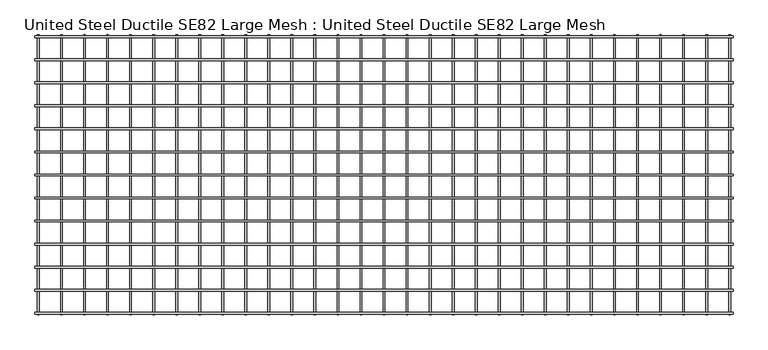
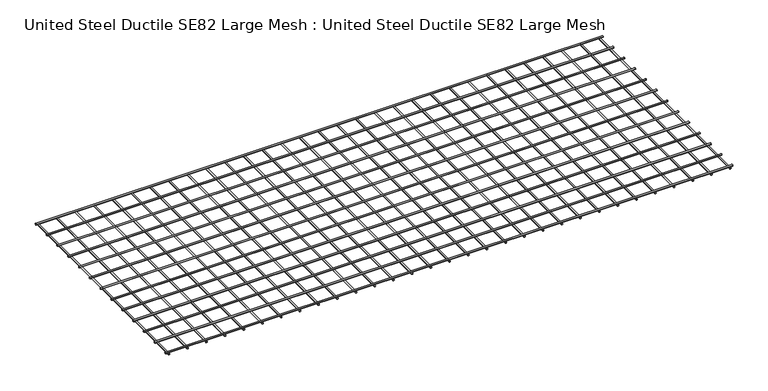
"""IFC4 building model written with IfcOpenShell, lengths in millimetres: proxy geometry, United Steel Ductile SE82 Large Mesh : United Steel Ductile SE82 Large Mesh."""

from ifc_helpers import new_model, si_unit, point, frame, frame_2d, origin, place, context, project, spatial, circle_curve, trimmed, segment, composite_curve, outline, extrude, source, transform, mapped, element, save


def united_steel_ductile_se82_large_mesh_united_steel_ductile_e41e5695(model_context):
    return source(origin(), model_context, "Body", "SweptSolid", [
        extrude(outline(composite_curve([segment(trimmed(circle_curve(frame_2d((-215.851314, 23.9363355)), 8.0), [point((-223.851314, 23.9363355))], [point((-207.851314, 23.9363355))], False, "CARTESIAN"), True, "CONTINUOUS"), segment(trimmed(circle_curve(frame_2d((-215.851314, 23.9363355)), 8.0), [point((-207.851314, 23.9363355))], [point((-223.851314, 23.9363355))], False, "CARTESIAN"), True, "CONTINUOUS")], self_intersect=False)), frame((-6060.0, 0.0, 0.0), z_axis=(1.0, 0.0, 0.0), x_axis=(0.0, 1.0, 0.0)), (0.0, 0.0, 1.0), 6060.0),
        extrude(outline(composite_curve([segment(trimmed(circle_curve(frame_2d((-415.8334994, 23.9363355)), 8.0), [point((-423.8334994, 23.9363355))], [point((-407.8334994, 23.9363355))], False, "CARTESIAN"), True, "CONTINUOUS"), segment(trimmed(circle_curve(frame_2d((-415.8334994, 23.9363355)), 8.0), [point((-407.8334994, 23.9363355))], [point((-423.8334994, 23.9363355))], False, "CARTESIAN"), True, "CONTINUOUS")], self_intersect=False)), frame((-6060.0, 0.0, 0.0), z_axis=(1.0, 0.0, 0.0), x_axis=(0.0, 1.0, 0.0)), (0.0, 0.0, 1.0), 6060.0),
        extrude(outline(composite_curve([segment(trimmed(circle_curve(frame_2d((7.9208072, -5829.877103)), 8.0), [point((7.9208072, -5837.877103))], [point((7.9208072, -5821.877103))], False, "CARTESIAN"), True, "CONTINUOUS"), segment(trimmed(circle_curve(frame_2d((7.9208072, -5829.877103)), 8.0), [point((7.9208072, -5821.877103))], [point((7.9208072, -5837.877103))], False, "CARTESIAN"), True, "CONTINUOUS")], self_intersect=False)), frame((0.0, -2430.0, 0.0), z_axis=(0.0, 1.0, 0.0), x_axis=(0.0, 0.0, 1.0)), (0.0, 0.0, 1.0), 2430.0),
        extrude(outline(composite_curve([segment(trimmed(circle_curve(frame_2d((7.9208072, -5629.8804145)), 8.0), [point((7.9208072, -5637.8804145))], [point((7.9208072, -5621.8804145))], False, "CARTESIAN"), True, "CONTINUOUS"), segment(trimmed(circle_curve(frame_2d((7.9208072, -5629.8804145)), 8.0), [point((7.9208072, -5621.8804145))], [point((7.9208072, -5637.8804145))], False, "CARTESIAN"), True, "CONTINUOUS")], self_intersect=False)), frame((0.0, -2430.0, 0.0), z_axis=(0.0, 1.0, 0.0), x_axis=(0.0, 0.0, 1.0)), (0.0, 0.0, 1.0), 2430.0),
        extrude(outline(composite_curve([segment(trimmed(circle_curve(frame_2d((7.9208072, -5429.883726)), 8.0), [point((7.9208072, -5437.883726))], [point((7.9208072, -5421.883726))], False, "CARTESIAN"), True, "CONTINUOUS"), segment(trimmed(circle_curve(frame_2d((7.9208072, -5429.883726)), 8.0), [point((7.9208072, -5421.883726))], [point((7.9208072, -5437.883726))], False, "CARTESIAN"), True, "CONTINUOUS")], self_intersect=False)), frame((0.0, -2430.0, 0.0), z_axis=(0.0, 1.0, 0.0), x_axis=(0.0, 0.0, 1.0)), (0.0, 0.0, 1.0), 2430.0),
        extrude(outline(composite_curve([segment(trimmed(circle_curve(frame_2d((7.9208072, -5229.8870376)), 8.0), [point((7.9208072, -5237.8870376))], [point((7.9208072, -5221.8870376))], False, "CARTESIAN"), True, "CONTINUOUS"), segment(trimmed(circle_curve(frame_2d((7.9208072, -5229.8870376)), 8.0), [point((7.9208072, -5221.8870376))], [point((7.9208072, -5237.8870376))], False, "CARTESIAN"), True, "CONTINUOUS")], self_intersect=False)), frame((0.0, -2430.0, 0.0), z_axis=(0.0, 1.0, 0.0), x_axis=(0.0, 0.0, 1.0)), (0.0, 0.0, 1.0), 2430.0),
        extrude(outline(composite_curve([segment(trimmed(circle_curve(frame_2d((7.9208072, -5029.8903491)), 8.0), [point((7.9208072, -5037.8903491))], [point((7.9208072, -5021.8903491))], False, "CARTESIAN"), True, "CONTINUOUS"), segment(trimmed(circle_curve(frame_2d((7.9208072, -5029.8903491)), 8.0), [point((7.9208072, -5021.8903491))], [point((7.9208072, -5037.8903491))], False, "CARTESIAN"), True, "CONTINUOUS")], self_intersect=False)), frame((0.0, -2430.0, 0.0), z_axis=(0.0, 1.0, 0.0), x_axis=(0.0, 0.0, 1.0)), (0.0, 0.0, 1.0), 2430.0),
        extrude(outline(composite_curve([segment(trimmed(circle_curve(frame_2d((-615.8156849, 23.9363355)), 8.0), [point((-623.8156849, 23.9363355))], [point((-607.8156849, 23.9363355))], False, "CARTESIAN"), True, "CONTINUOUS"), segment(trimmed(circle_curve(frame_2d((-615.8156849, 23.9363355)), 8.0), [point((-607.8156849, 23.9363355))], [point((-623.8156849, 23.9363355))], False, "CARTESIAN"), True, "CONTINUOUS")], self_intersect=False)), frame((-6060.0, 0.0, 0.0), z_axis=(1.0, 0.0, 0.0), x_axis=(0.0, 1.0, 0.0)), (0.0, 0.0, 1.0), 6060.0),
        extrude(outline(composite_curve([segment(trimmed(circle_curve(frame_2d((-815.7978704, 23.9363355)), 8.0), [point((-823.7978704, 23.9363355))], [point((-807.7978704, 23.9363355))], False, "CARTESIAN"), True, "CONTINUOUS"), segment(trimmed(circle_curve(frame_2d((-815.7978704, 23.9363355)), 8.0), [point((-807.7978704, 23.9363355))], [point((-823.7978704, 23.9363355))], False, "CARTESIAN"), True, "CONTINUOUS")], self_intersect=False)), frame((-6060.0, 0.0, 0.0), z_axis=(1.0, 0.0, 0.0), x_axis=(0.0, 1.0, 0.0)), (0.0, 0.0, 1.0), 6060.0),
        extrude(outline(composite_curve([segment(trimmed(circle_curve(frame_2d((-1015.7800559, 23.9363355)), 8.0), [point((-1023.7800559, 23.9363355))], [point((-1007.7800559, 23.9363355))], False, "CARTESIAN"), True, "CONTINUOUS"), segment(trimmed(circle_curve(frame_2d((-1015.7800559, 23.9363355)), 8.0), [point((-1007.7800559, 23.9363355))], [point((-1023.7800559, 23.9363355))], False, "CARTESIAN"), True, "CONTINUOUS")], self_intersect=False)), frame((-6060.0, 0.0, 0.0), z_axis=(1.0, 0.0, 0.0), x_axis=(0.0, 1.0, 0.0)), (0.0, 0.0, 1.0), 6060.0),
        extrude(outline(composite_curve([segment(trimmed(circle_curve(frame_2d((-1215.7622413, 23.9363355)), 8.0), [point((-1223.7622413, 23.9363355))], [point((-1207.7622413, 23.9363355))], False, "CARTESIAN"), True, "CONTINUOUS"), segment(trimmed(circle_curve(frame_2d((-1215.7622413, 23.9363355)), 8.0), [point((-1207.7622413, 23.9363355))], [point((-1223.7622413, 23.9363355))], False, "CARTESIAN"), True, "CONTINUOUS")], self_intersect=False)), frame((-6060.0, 0.0, 0.0), z_axis=(1.0, 0.0, 0.0), x_axis=(0.0, 1.0, 0.0)), (0.0, 0.0, 1.0), 6060.0),
        extrude(outline(composite_curve([segment(trimmed(circle_curve(frame_2d((-1415.7444268, 23.9363355)), 8.0), [point((-1423.7444268, 23.9363355))], [point((-1407.7444268, 23.9363355))], False, "CARTESIAN"), True, "CONTINUOUS"), segment(trimmed(circle_curve(frame_2d((-1415.7444268, 23.9363355)), 8.0), [point((-1407.7444268, 23.9363355))], [point((-1423.7444268, 23.9363355))], False, "CARTESIAN"), True, "CONTINUOUS")], self_intersect=False)), frame((-6060.0, 0.0, 0.0), z_axis=(1.0, 0.0, 0.0), x_axis=(0.0, 1.0, 0.0)), (0.0, 0.0, 1.0), 6060.0),
        extrude(outline(composite_curve([segment(trimmed(circle_curve(frame_2d((-1615.7266123, 23.9363355)), 8.0), [point((-1623.7266123, 23.9363355))], [point((-1607.7266123, 23.9363355))], False, "CARTESIAN"), True, "CONTINUOUS"), segment(trimmed(circle_curve(frame_2d((-1615.7266123, 23.9363355)), 8.0), [point((-1607.7266123, 23.9363355))], [point((-1623.7266123, 23.9363355))], False, "CARTESIAN"), True, "CONTINUOUS")], self_intersect=False)), frame((-6060.0, 0.0, 0.0), z_axis=(1.0, 0.0, 0.0), x_axis=(0.0, 1.0, 0.0)), (0.0, 0.0, 1.0), 6060.0),
        extrude(outline(composite_curve([segment(trimmed(circle_curve(frame_2d((-1815.7087978, 23.9363355)), 8.0), [point((-1823.7087978, 23.9363355))], [point((-1807.7087978, 23.9363355))], False, "CARTESIAN"), True, "CONTINUOUS"), segment(trimmed(circle_curve(frame_2d((-1815.7087978, 23.9363355)), 8.0), [point((-1807.7087978, 23.9363355))], [point((-1823.7087978, 23.9363355))], False, "CARTESIAN"), True, "CONTINUOUS")], self_intersect=False)), frame((-6060.0, 0.0, 0.0), z_axis=(1.0, 0.0, 0.0), x_axis=(0.0, 1.0, 0.0)), (0.0, 0.0, 1.0), 6060.0),
        extrude(outline(composite_curve([segment(trimmed(circle_curve(frame_2d((-2015.6909832, 23.9363355)), 8.0), [point((-2023.6909832, 23.9363355))], [point((-2007.6909832, 23.9363355))], False, "CARTESIAN"), True, "CONTINUOUS"), segment(trimmed(circle_curve(frame_2d((-2015.6909832, 23.9363355)), 8.0), [point((-2007.6909832, 23.9363355))], [point((-2023.6909832, 23.9363355))], False, "CARTESIAN"), True, "CONTINUOUS")], self_intersect=False)), frame((-6060.0, 0.0, 0.0), z_axis=(1.0, 0.0, 0.0), x_axis=(0.0, 1.0, 0.0)), (0.0, 0.0, 1.0), 6060.0),
        extrude(outline(composite_curve([segment(trimmed(circle_curve(frame_2d((-2215.6731687, 23.9363355)), 8.0), [point((-2223.6731687, 23.9363355))], [point((-2207.6731687, 23.9363355))], False, "CARTESIAN"), True, "CONTINUOUS"), segment(trimmed(circle_curve(frame_2d((-2215.6731687, 23.9363355)), 8.0), [point((-2207.6731687, 23.9363355))], [point((-2223.6731687, 23.9363355))], False, "CARTESIAN"), True, "CONTINUOUS")], self_intersect=False)), frame((-6060.0, 0.0, 0.0), z_axis=(1.0, 0.0, 0.0), x_axis=(0.0, 1.0, 0.0)), (0.0, 0.0, 1.0), 6060.0),
        extrude(outline(composite_curve([segment(trimmed(circle_curve(frame_2d((-15.8691285, 23.9363355)), 8.0), [point((-23.8691285, 23.9363355))], [point((-7.8691285, 23.9363355))], False, "CARTESIAN"), True, "CONTINUOUS"), segment(trimmed(circle_curve(frame_2d((-15.8691285, 23.9363355)), 8.0), [point((-7.8691285, 23.9363355))], [point((-23.8691285, 23.9363355))], False, "CARTESIAN"), True, "CONTINUOUS")], self_intersect=False)), frame((-6060.0, 0.0, 0.0), z_axis=(1.0, 0.0, 0.0), x_axis=(0.0, 1.0, 0.0)), (0.0, 0.0, 1.0), 6060.0),
        extrude(outline(composite_curve([segment(trimmed(circle_curve(frame_2d((-2415.6553542, 23.9363355)), 8.0), [point((-2423.6553542, 23.9363355))], [point((-2407.6553542, 23.9363355))], False, "CARTESIAN"), True, "CONTINUOUS"), segment(trimmed(circle_curve(frame_2d((-2415.6553542, 23.9363355)), 8.0), [point((-2407.6553542, 23.9363355))], [point((-2423.6553542, 23.9363355))], False, "CARTESIAN"), True, "CONTINUOUS")], self_intersect=False)), frame((-6060.0, 0.0, 0.0), z_axis=(1.0, 0.0, 0.0), x_axis=(0.0, 1.0, 0.0)), (0.0, 0.0, 1.0), 6060.0),
        extrude(outline(composite_curve([segment(trimmed(circle_curve(frame_2d((7.9208072, -4829.8936606)), 8.0), [point((7.9208072, -4837.8936606))], [point((7.9208072, -4821.8936606))], False, "CARTESIAN"), True, "CONTINUOUS"), segment(trimmed(circle_curve(frame_2d((7.9208072, -4829.8936606)), 8.0), [point((7.9208072, -4821.8936606))], [point((7.9208072, -4837.8936606))], False, "CARTESIAN"), True, "CONTINUOUS")], self_intersect=False)), frame((0.0, -2430.0, 0.0), z_axis=(0.0, 1.0, 0.0), x_axis=(0.0, 0.0, 1.0)), (0.0, 0.0, 1.0), 2430.0),
        extrude(outline(composite_curve([segment(trimmed(circle_curve(frame_2d((7.9208072, -4629.8969721)), 8.0), [point((7.9208072, -4637.8969721))], [point((7.9208072, -4621.8969721))], False, "CARTESIAN"), True, "CONTINUOUS"), segment(trimmed(circle_curve(frame_2d((7.9208072, -4629.8969721)), 8.0), [point((7.9208072, -4621.8969721))], [point((7.9208072, -4637.8969721))], False, "CARTESIAN"), True, "CONTINUOUS")], self_intersect=False)), frame((0.0, -2430.0, 0.0), z_axis=(0.0, 1.0, 0.0), x_axis=(0.0, 0.0, 1.0)), (0.0, 0.0, 1.0), 2430.0),
        extrude(outline(composite_curve([segment(trimmed(circle_curve(frame_2d((7.9208072, -4429.9002836)), 8.0), [point((7.9208072, -4437.9002836))], [point((7.9208072, -4421.9002836))], False, "CARTESIAN"), True, "CONTINUOUS"), segment(trimmed(circle_curve(frame_2d((7.9208072, -4429.9002836)), 8.0), [point((7.9208072, -4421.9002836))], [point((7.9208072, -4437.9002836))], False, "CARTESIAN"), True, "CONTINUOUS")], self_intersect=False)), frame((0.0, -2430.0, 0.0), z_axis=(0.0, 1.0, 0.0), x_axis=(0.0, 0.0, 1.0)), (0.0, 0.0, 1.0), 2430.0),
        extrude(outline(composite_curve([segment(trimmed(circle_curve(frame_2d((7.9208072, -4229.9035951)), 8.0), [point((7.9208072, -4237.9035951))], [point((7.9208072, -4221.9035951))], False, "CARTESIAN"), True, "CONTINUOUS"), segment(trimmed(circle_curve(frame_2d((7.9208072, -4229.9035951)), 8.0), [point((7.9208072, -4221.9035951))], [point((7.9208072, -4237.9035951))], False, "CARTESIAN"), True, "CONTINUOUS")], self_intersect=False)), frame((0.0, -2430.0, 0.0), z_axis=(0.0, 1.0, 0.0), x_axis=(0.0, 0.0, 1.0)), (0.0, 0.0, 1.0), 2430.0),
        extrude(outline(composite_curve([segment(trimmed(circle_curve(frame_2d((7.9208072, -4029.9069067)), 8.0), [point((7.9208072, -4037.9069067))], [point((7.9208072, -4021.9069067))], False, "CARTESIAN"), True, "CONTINUOUS"), segment(trimmed(circle_curve(frame_2d((7.9208072, -4029.9069067)), 8.0), [point((7.9208072, -4021.9069067))], [point((7.9208072, -4037.9069067))], False, "CARTESIAN"), True, "CONTINUOUS")], self_intersect=False)), frame((0.0, -2430.0, 0.0), z_axis=(0.0, 1.0, 0.0), x_axis=(0.0, 0.0, 1.0)), (0.0, 0.0, 1.0), 2430.0),
        extrude(outline(composite_curve([segment(trimmed(circle_curve(frame_2d((7.9208072, -3829.9102182)), 8.0), [point((7.9208072, -3837.9102182))], [point((7.9208072, -3821.9102182))], False, "CARTESIAN"), True, "CONTINUOUS"), segment(trimmed(circle_curve(frame_2d((7.9208072, -3829.9102182)), 8.0), [point((7.9208072, -3821.9102182))], [point((7.9208072, -3837.9102182))], False, "CARTESIAN"), True, "CONTINUOUS")], self_intersect=False)), frame((0.0, -2430.0, 0.0), z_axis=(0.0, 1.0, 0.0), x_axis=(0.0, 0.0, 1.0)), (0.0, 0.0, 1.0), 2430.0),
        extrude(outline(composite_curve([segment(trimmed(circle_curve(frame_2d((7.9208072, -3629.9135297)), 8.0), [point((7.9208072, -3637.9135297))], [point((7.9208072, -3621.9135297))], False, "CARTESIAN"), True, "CONTINUOUS"), segment(trimmed(circle_curve(frame_2d((7.9208072, -3629.9135297)), 8.0), [point((7.9208072, -3621.9135297))], [point((7.9208072, -3637.9135297))], False, "CARTESIAN"), True, "CONTINUOUS")], self_intersect=False)), frame((0.0, -2430.0, 0.0), z_axis=(0.0, 1.0, 0.0), x_axis=(0.0, 0.0, 1.0)), (0.0, 0.0, 1.0), 2430.0),
        extrude(outline(composite_curve([segment(trimmed(circle_curve(frame_2d((7.9208072, -3429.9168412)), 8.0), [point((7.9208072, -3437.9168412))], [point((7.9208072, -3421.9168412))], False, "CARTESIAN"), True, "CONTINUOUS"), segment(trimmed(circle_curve(frame_2d((7.9208072, -3429.9168412)), 8.0), [point((7.9208072, -3421.9168412))], [point((7.9208072, -3437.9168412))], False, "CARTESIAN"), True, "CONTINUOUS")], self_intersect=False)), frame((0.0, -2430.0, 0.0), z_axis=(0.0, 1.0, 0.0), x_axis=(0.0, 0.0, 1.0)), (0.0, 0.0, 1.0), 2430.0),
        extrude(outline(composite_curve([segment(trimmed(circle_curve(frame_2d((7.9208072, -3229.9201527)), 8.0), [point((7.9208072, -3237.9201527))], [point((7.9208072, -3221.9201527))], False, "CARTESIAN"), True, "CONTINUOUS"), segment(trimmed(circle_curve(frame_2d((7.9208072, -3229.9201527)), 8.0), [point((7.9208072, -3221.9201527))], [point((7.9208072, -3237.9201527))], False, "CARTESIAN"), True, "CONTINUOUS")], self_intersect=False)), frame((0.0, -2430.0, 0.0), z_axis=(0.0, 1.0, 0.0), x_axis=(0.0, 0.0, 1.0)), (0.0, 0.0, 1.0), 2430.0),
        extrude(outline(composite_curve([segment(trimmed(circle_curve(frame_2d((7.9208072, -3029.9234643)), 8.0), [point((7.9208072, -3037.9234643))], [point((7.9208072, -3021.9234643))], False, "CARTESIAN"), True, "CONTINUOUS"), segment(trimmed(circle_curve(frame_2d((7.9208072, -3029.9234643)), 8.0), [point((7.9208072, -3021.9234643))], [point((7.9208072, -3037.9234643))], False, "CARTESIAN"), True, "CONTINUOUS")], self_intersect=False)), frame((0.0, -2430.0, 0.0), z_axis=(0.0, 1.0, 0.0), x_axis=(0.0, 0.0, 1.0)), (0.0, 0.0, 1.0), 2430.0),
        extrude(outline(composite_curve([segment(trimmed(circle_curve(frame_2d((7.9208072, -2829.9267758)), 8.0), [point((7.9208072, -2837.9267758))], [point((7.9208072, -2821.9267758))], False, "CARTESIAN"), True, "CONTINUOUS"), segment(trimmed(circle_curve(frame_2d((7.9208072, -2829.9267758)), 8.0), [point((7.9208072, -2821.9267758))], [point((7.9208072, -2837.9267758))], False, "CARTESIAN"), True, "CONTINUOUS")], self_intersect=False)), frame((0.0, -2430.0, 0.0), z_axis=(0.0, 1.0, 0.0), x_axis=(0.0, 0.0, 1.0)), (0.0, 0.0, 1.0), 2430.0),
        extrude(outline(composite_curve([segment(trimmed(circle_curve(frame_2d((7.9208072, -2629.9300873)), 8.0), [point((7.9208072, -2637.9300873))], [point((7.9208072, -2621.9300873))], False, "CARTESIAN"), True, "CONTINUOUS"), segment(trimmed(circle_curve(frame_2d((7.9208072, -2629.9300873)), 8.0), [point((7.9208072, -2621.9300873))], [point((7.9208072, -2637.9300873))], False, "CARTESIAN"), True, "CONTINUOUS")], self_intersect=False)), frame((0.0, -2430.0, 0.0), z_axis=(0.0, 1.0, 0.0), x_axis=(0.0, 0.0, 1.0)), (0.0, 0.0, 1.0), 2430.0),
        extrude(outline(composite_curve([segment(trimmed(circle_curve(frame_2d((7.9208072, -2429.9333988)), 8.0), [point((7.9208072, -2437.9333988))], [point((7.9208072, -2421.9333988))], False, "CARTESIAN"), True, "CONTINUOUS"), segment(trimmed(circle_curve(frame_2d((7.9208072, -2429.9333988)), 8.0), [point((7.9208072, -2421.9333988))], [point((7.9208072, -2437.9333988))], False, "CARTESIAN"), True, "CONTINUOUS")], self_intersect=False)), frame((0.0, -2430.0, 0.0), z_axis=(0.0, 1.0, 0.0), x_axis=(0.0, 0.0, 1.0)), (0.0, 0.0, 1.0), 2430.0),
        extrude(outline(composite_curve([segment(trimmed(circle_curve(frame_2d((7.9208072, -2229.9367103)), 8.0), [point((7.9208072, -2237.9367103))], [point((7.9208072, -2221.9367103))], False, "CARTESIAN"), True, "CONTINUOUS"), segment(trimmed(circle_curve(frame_2d((7.9208072, -2229.9367103)), 8.0), [point((7.9208072, -2221.9367103))], [point((7.9208072, -2237.9367103))], False, "CARTESIAN"), True, "CONTINUOUS")], self_intersect=False)), frame((0.0, -2430.0, 0.0), z_axis=(0.0, 1.0, 0.0), x_axis=(0.0, 0.0, 1.0)), (0.0, 0.0, 1.0), 2430.0),
        extrude(outline(composite_curve([segment(trimmed(circle_curve(frame_2d((7.9208072, -2029.9400218)), 8.0), [point((7.9208072, -2037.9400218))], [point((7.9208072, -2021.9400218))], False, "CARTESIAN"), True, "CONTINUOUS"), segment(trimmed(circle_curve(frame_2d((7.9208072, -2029.9400218)), 8.0), [point((7.9208072, -2021.9400218))], [point((7.9208072, -2037.9400218))], False, "CARTESIAN"), True, "CONTINUOUS")], self_intersect=False)), frame((0.0, -2430.0, 0.0), z_axis=(0.0, 1.0, 0.0), x_axis=(0.0, 0.0, 1.0)), (0.0, 0.0, 1.0), 2430.0),
        extrude(outline(composite_curve([segment(trimmed(circle_curve(frame_2d((7.9208072, -1829.9433334)), 8.0), [point((7.9208072, -1837.9433334))], [point((7.9208072, -1821.9433334))], False, "CARTESIAN"), True, "CONTINUOUS"), segment(trimmed(circle_curve(frame_2d((7.9208072, -1829.9433334)), 8.0), [point((7.9208072, -1821.9433334))], [point((7.9208072, -1837.9433334))], False, "CARTESIAN"), True, "CONTINUOUS")], self_intersect=False)), frame((0.0, -2430.0, 0.0), z_axis=(0.0, 1.0, 0.0), x_axis=(0.0, 0.0, 1.0)), (0.0, 0.0, 1.0), 2430.0),
        extrude(outline(composite_curve([segment(trimmed(circle_curve(frame_2d((7.9208072, -1629.9466449)), 8.0), [point((7.9208072, -1637.9466449))], [point((7.9208072, -1621.9466449))], False, "CARTESIAN"), True, "CONTINUOUS"), segment(trimmed(circle_curve(frame_2d((7.9208072, -1629.9466449)), 8.0), [point((7.9208072, -1621.9466449))], [point((7.9208072, -1637.9466449))], False, "CARTESIAN"), True, "CONTINUOUS")], self_intersect=False)), frame((0.0, -2430.0, 0.0), z_axis=(0.0, 1.0, 0.0), x_axis=(0.0, 0.0, 1.0)), (0.0, 0.0, 1.0), 2430.0),
        extrude(outline(composite_curve([segment(trimmed(circle_curve(frame_2d((7.9208072, -1429.9499564)), 8.0), [point((7.9208072, -1437.9499564))], [point((7.9208072, -1421.9499564))], False, "CARTESIAN"), True, "CONTINUOUS"), segment(trimmed(circle_curve(frame_2d((7.9208072, -1429.9499564)), 8.0), [point((7.9208072, -1421.9499564))], [point((7.9208072, -1437.9499564))], False, "CARTESIAN"), True, "CONTINUOUS")], self_intersect=False)), frame((0.0, -2430.0, 0.0), z_axis=(0.0, 1.0, 0.0), x_axis=(0.0, 0.0, 1.0)), (0.0, 0.0, 1.0), 2430.0),
        extrude(outline(composite_curve([segment(trimmed(circle_curve(frame_2d((7.9208072, -1229.9532679)), 8.0), [point((7.9208072, -1237.9532679))], [point((7.9208072, -1221.9532679))], False, "CARTESIAN"), True, "CONTINUOUS"), segment(trimmed(circle_curve(frame_2d((7.9208072, -1229.9532679)), 8.0), [point((7.9208072, -1221.9532679))], [point((7.9208072, -1237.9532679))], False, "CARTESIAN"), True, "CONTINUOUS")], self_intersect=False)), frame((0.0, -2430.0, 0.0), z_axis=(0.0, 1.0, 0.0), x_axis=(0.0, 0.0, 1.0)), (0.0, 0.0, 1.0), 2430.0),
        extrude(outline(composite_curve([segment(trimmed(circle_curve(frame_2d((7.9208072, -1029.9565794)), 8.0), [point((7.9208072, -1037.9565794))], [point((7.9208072, -1021.9565794))], False, "CARTESIAN"), True, "CONTINUOUS"), segment(trimmed(circle_curve(frame_2d((7.9208072, -1029.9565794)), 8.0), [point((7.9208072, -1021.9565794))], [point((7.9208072, -1037.9565794))], False, "CARTESIAN"), True, "CONTINUOUS")], self_intersect=False)), frame((0.0, -2430.0, 0.0), z_axis=(0.0, 1.0, 0.0), x_axis=(0.0, 0.0, 1.0)), (0.0, 0.0, 1.0), 2430.0),
        extrude(outline(composite_curve([segment(trimmed(circle_curve(frame_2d((7.9208072, -829.959891)), 8.0), [point((7.9208072, -837.959891))], [point((7.9208072, -821.959891))], False, "CARTESIAN"), True, "CONTINUOUS"), segment(trimmed(circle_curve(frame_2d((7.9208072, -829.959891)), 8.0), [point((7.9208072, -821.959891))], [point((7.9208072, -837.959891))], False, "CARTESIAN"), True, "CONTINUOUS")], self_intersect=False)), frame((0.0, -2430.0, 0.0), z_axis=(0.0, 1.0, 0.0), x_axis=(0.0, 0.0, 1.0)), (0.0, 0.0, 1.0), 2430.0),
        extrude(outline(composite_curve([segment(trimmed(circle_curve(frame_2d((7.9208072, -629.9632025)), 8.0), [point((7.9208072, -637.9632025))], [point((7.9208072, -621.9632025))], False, "CARTESIAN"), True, "CONTINUOUS"), segment(trimmed(circle_curve(frame_2d((7.9208072, -629.9632025)), 8.0), [point((7.9208072, -621.9632025))], [point((7.9208072, -637.9632025))], False, "CARTESIAN"), True, "CONTINUOUS")], self_intersect=False)), frame((0.0, -2430.0, 0.0), z_axis=(0.0, 1.0, 0.0), x_axis=(0.0, 0.0, 1.0)), (0.0, 0.0, 1.0), 2430.0),
        extrude(outline(composite_curve([segment(trimmed(circle_curve(frame_2d((7.9208072, -429.966514)), 8.0), [point((7.9208072, -437.966514))], [point((7.9208072, -421.966514))], False, "CARTESIAN"), True, "CONTINUOUS"), segment(trimmed(circle_curve(frame_2d((7.9208072, -429.966514)), 8.0), [point((7.9208072, -421.966514))], [point((7.9208072, -437.966514))], False, "CARTESIAN"), True, "CONTINUOUS")], self_intersect=False)), frame((0.0, -2430.0, 0.0), z_axis=(0.0, 1.0, 0.0), x_axis=(0.0, 0.0, 1.0)), (0.0, 0.0, 1.0), 2430.0),
        extrude(outline(composite_curve([segment(trimmed(circle_curve(frame_2d((7.9208072, -229.9698255)), 8.0), [point((7.9208072, -237.9698255))], [point((7.9208072, -221.9698255))], False, "CARTESIAN"), True, "CONTINUOUS"), segment(trimmed(circle_curve(frame_2d((7.9208072, -229.9698255)), 8.0), [point((7.9208072, -221.9698255))], [point((7.9208072, -237.9698255))], False, "CARTESIAN"), True, "CONTINUOUS")], self_intersect=False)), frame((0.0, -2430.0, 0.0), z_axis=(0.0, 1.0, 0.0), x_axis=(0.0, 0.0, 1.0)), (0.0, 0.0, 1.0), 2430.0),
        extrude(outline(composite_curve([segment(trimmed(circle_curve(frame_2d((7.9208072, -6029.8737915)), 8.0), [point((7.9208072, -6037.8737915))], [point((7.9208072, -6021.8737915))], False, "CARTESIAN"), True, "CONTINUOUS"), segment(trimmed(circle_curve(frame_2d((7.9208072, -6029.8737915)), 8.0), [point((7.9208072, -6021.8737915))], [point((7.9208072, -6037.8737915))], False, "CARTESIAN"), True, "CONTINUOUS")], self_intersect=False)), frame((0.0, -2430.0, 0.0), z_axis=(0.0, 1.0, 0.0), x_axis=(0.0, 0.0, 1.0)), (0.0, 0.0, 1.0), 2430.0),
        extrude(outline(composite_curve([segment(trimmed(circle_curve(frame_2d((7.9208072, -29.973137)), 8.0), [point((7.9208072, -37.973137))], [point((7.9208072, -21.973137))], False, "CARTESIAN"), True, "CONTINUOUS"), segment(trimmed(circle_curve(frame_2d((7.9208072, -29.973137)), 8.0), [point((7.9208072, -21.973137))], [point((7.9208072, -37.973137))], False, "CARTESIAN"), True, "CONTINUOUS")], self_intersect=False)), frame((0.0, -2430.0, 0.0), z_axis=(0.0, 1.0, 0.0), x_axis=(0.0, 0.0, 1.0)), (0.0, 0.0, 1.0), 2430.0),
    ])


if __name__ == "__main__":
    model = new_model("IFC4")
    model_context = context("Model", 3, world=origin())
    ifc_project = project(units=[si_unit("LENGTHUNIT", "METRE", prefix="MILLI")], contexts=[model_context])
    site = spatial("IfcSite", under=ifc_project)
    building = spatial("IfcBuilding", under=site)
    placement = place(None, origin())
    united_steel_ductile_se82_large_mesh_united_steel_ductile_shape = united_steel_ductile_se82_large_mesh_united_steel_ductile_e41e5695(model_context)
    element("IfcBuildingElementProxy", 1, Name="United Steel Ductile SE82 Large Mesh : United Steel Ductile SE82 Large Mesh", ObjectType="United Steel Ductile SE82 Large Mesh : United Steel Ductile SE82 Large Mesh", at=placement, inside=building, context=model_context, shape_type="MappedRepresentation", body=[
        mapped(united_steel_ductile_se82_large_mesh_united_steel_ductile_shape, transform((0.0, 0.0, 0.0), x_axis=(1.0, 0.0, 0.0), y_axis=(0.0, 1.0, 0.0), z_axis=(0.0, 0.0, 1.0))),
    ])
    save(model, "model.ifc")
